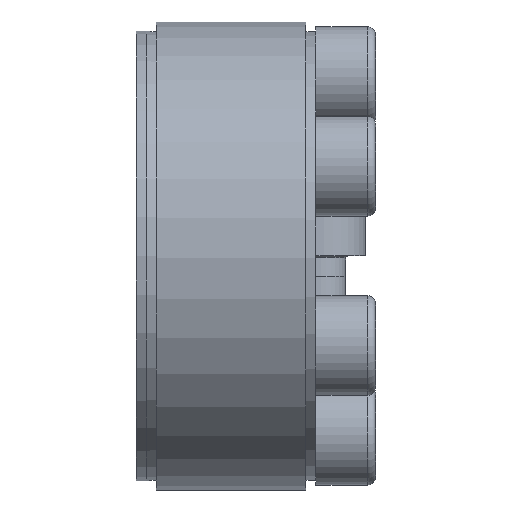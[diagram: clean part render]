
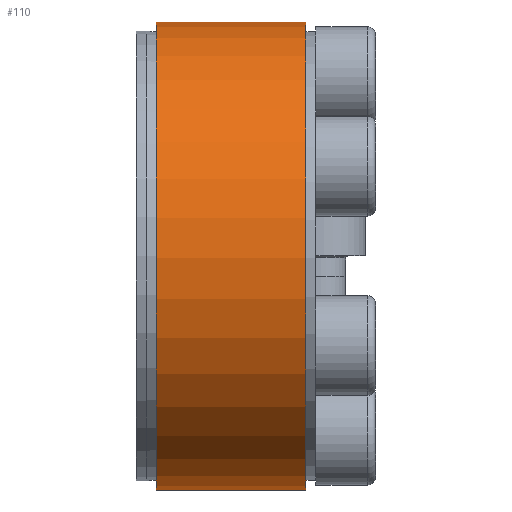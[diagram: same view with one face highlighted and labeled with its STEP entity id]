
A CAD part, left-side view. The second image highlights one B-rep face of the part: STEP entity #110.
In plain terms, the highlighted cylindrical face has radius 23.5 mm (diameter 47 mm), a partial arc.
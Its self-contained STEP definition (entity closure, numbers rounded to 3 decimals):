
#110 = ADVANCED_FACE( '', ( #232 ), #233, .T. );
#232 = FACE_OUTER_BOUND( '', #358, .T. );
#233 = CYLINDRICAL_SURFACE( '', #359, 23.5 );
#358 = EDGE_LOOP( '', ( #606, #607, #608, #609 ) );
#359 = AXIS2_PLACEMENT_3D( '', #610, #611, #612 );
#606 = ORIENTED_EDGE( '', *, *, #726, .F. );
#607 = ORIENTED_EDGE( '', *, *, #769, .T. );
#608 = ORIENTED_EDGE( '', *, *, #754, .T. );
#609 = ORIENTED_EDGE( '', *, *, #764, .F. );
#610 = CARTESIAN_POINT( '', ( 0., -60., 0. ) );
#611 = DIRECTION( '', ( 0., 1., 0. ) );
#612 = DIRECTION( '', ( 0., 0., -1. ) );
#726 = EDGE_CURVE( '', #887, #888, #889, .T. );
#754 = EDGE_CURVE( '', #919, #931, #933, .T. );
#764 = EDGE_CURVE( '', #888, #931, #949, .T. );
#769 = EDGE_CURVE( '', #887, #919, #955, .T. );
#887 = VERTEX_POINT( '', #1170 );
#888 = VERTEX_POINT( '', #1171 );
#889 = LINE( '', #1172, #1173 );
#919 = VERTEX_POINT( '', #1217 );
#931 = VERTEX_POINT( '', #1236 );
#933 = LINE( '', #1239, #1240 );
#949 = CIRCLE( '', #1256, 23.5 );
#955 = CIRCLE( '', #1262, 23.5 );
#1170 = CARTESIAN_POINT( '', ( 11.094, 16., 20.716 ) );
#1171 = CARTESIAN_POINT( '', ( 11.094, 1., 20.716 ) );
#1172 = CARTESIAN_POINT( '', ( 11.094, -60., 20.716 ) );
#1173 = VECTOR( '', #1351, 1000. );
#1217 = CARTESIAN_POINT( '', ( 12.394, 16., 19.966 ) );
#1236 = CARTESIAN_POINT( '', ( 12.394, 1., 19.966 ) );
#1239 = CARTESIAN_POINT( '', ( 12.394, -60., 19.966 ) );
#1240 = VECTOR( '', #1383, 1000. );
#1256 = AXIS2_PLACEMENT_3D( '', #1402, #1403, #1404 );
#1262 = AXIS2_PLACEMENT_3D( '', #1411, #1412, #1413 );
#1351 = DIRECTION( '', ( 0., -1., 0. ) );
#1383 = DIRECTION( '', ( 0., -1., 0. ) );
#1402 = CARTESIAN_POINT( '', ( 0., 1., 0. ) );
#1403 = DIRECTION( '', ( 0., -1., 0. ) );
#1404 = DIRECTION( '', ( 0., 0., -1. ) );
#1411 = CARTESIAN_POINT( '', ( 0., 16., 0. ) );
#1412 = DIRECTION( '', ( 0., -1., 0. ) );
#1413 = DIRECTION( '', ( 0., 0., -1. ) );
